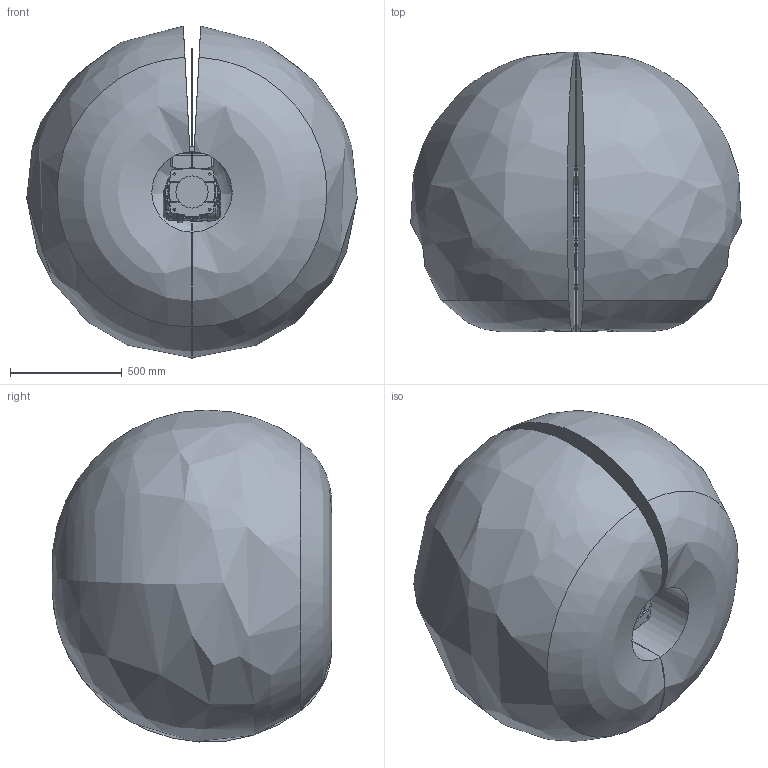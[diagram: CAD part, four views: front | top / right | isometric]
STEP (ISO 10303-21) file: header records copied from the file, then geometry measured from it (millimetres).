
FILE_DESCRIPTION((''),'2;1');
FILE_NAME('R8-700_ASM','2024-05-18T15:25:22',('Administrator'),(''),'CREO PARAMETRIC BY PTC INC, 2018260','CREO PARAMETRIC BY PTC INC, 2018260','');
FILE_SCHEMA(('CONFIG_CONTROL_DESIGN','SHAPE_APPEARANCE_LAYERS_GROUPS'));
Products named in the file (10): R8-700_BASE; R8-700_JOINT1; R8-700_JOINT2; R8-700_JOINT3; R8-700_JOINT4; R8-700_JOINT5; R8-700_JOINT6; R8-700_RANGE1; R8-700_RANGE2; R8-700_ASM
Assembly tree (9 placements, depth 2):
  R8-700_ASM
    R8-700_BASE
    R8-700_JOINT1
    R8-700_JOINT2
    R8-700_JOINT3
    R8-700_JOINT4
    R8-700_JOINT5
    R8-700_JOINT6
    R8-700_RANGE1
    R8-700_RANGE2
Bounding box: 1479.6 x 1253.07 x 1486.6 mm (x, y, z)
Volume: 1497167831.5 mm3; surface area: 11916336.7 mm2
Topology: 9 solids, 56 shells, 5638 faces, 14161 edges, 8717 vertices
Faces by surface type: bspline 1696, plane 1479, cylinder 1468, torus 555, cone 423, extrusion 16, sphere 1
Entity records: 271745 total; most frequent: CARTESIAN_POINT 152032, ORIENTED_EDGE 27998, DIRECTION 20495, EDGE_CURVE 13999, VERTEX_POINT 8717, AXIS2_PLACEMENT_3D 8184, EDGE_LOOP 5956, B_SPLINE_CURVE_WITH_KNOTS 5665
